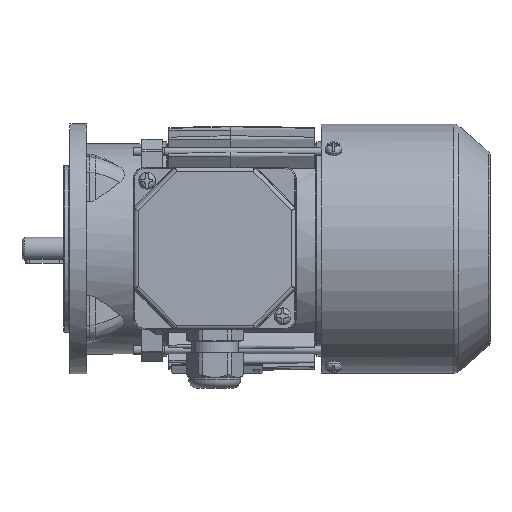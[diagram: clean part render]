
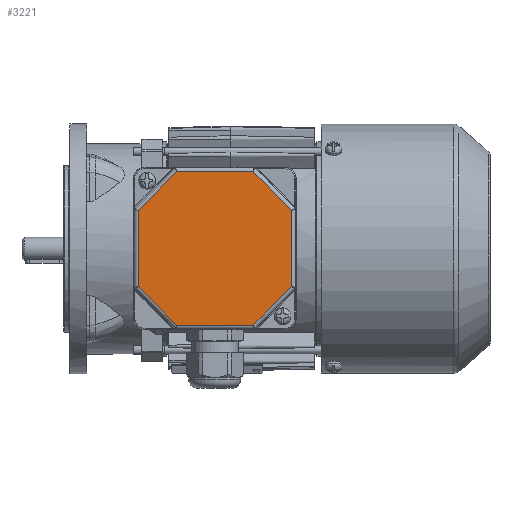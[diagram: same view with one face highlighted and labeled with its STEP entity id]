
A CAD part, top view. The second image highlights one B-rep face of the part: STEP entity #3221.
In plain terms, the highlighted planar face has unit normal (0, 0, 1).
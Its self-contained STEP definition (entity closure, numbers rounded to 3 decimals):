
#3221 = ADVANCED_FACE( '', ( #7312 ), #7313, .T. );
#7312 = FACE_OUTER_BOUND( '', #14791, .T. );
#7313 = PLANE( '', #14792 );
#14791 = EDGE_LOOP( '', ( #29468, #29469, #29470, #29471, #29472, #29473, #29474, #29475 ) );
#14792 = AXIS2_PLACEMENT_3D( '', #29476, #29477, #29478 );
#29468 = ORIENTED_EDGE( '', *, *, #43688, .T. );
#29469 = ORIENTED_EDGE( '', *, *, #43689, .T. );
#29470 = ORIENTED_EDGE( '', *, *, #43690, .T. );
#29471 = ORIENTED_EDGE( '', *, *, #42019, .T. );
#29472 = ORIENTED_EDGE( '', *, *, #43691, .T. );
#29473 = ORIENTED_EDGE( '', *, *, #43692, .T. );
#29474 = ORIENTED_EDGE( '', *, *, #43693, .T. );
#29475 = ORIENTED_EDGE( '', *, *, #43694, .T. );
#29476 = CARTESIAN_POINT( '', ( -39., 39., 12. ) );
#29477 = DIRECTION( '', ( 0., 0., 1. ) );
#29478 = DIRECTION( '', ( 1., 0., 0. ) );
#42019 = EDGE_CURVE( '', #48800, #48801, #48802, .T. );
#43688 = EDGE_CURVE( '', #51622, #50199, #51623, .F. );
#43689 = EDGE_CURVE( '', #50199, #51596, #51624, .T. );
#43690 = EDGE_CURVE( '', #51596, #48800, #51625, .F. );
#43691 = EDGE_CURVE( '', #48801, #51626, #51627, .F. );
#43692 = EDGE_CURVE( '', #51626, #51628, #51629, .T. );
#43693 = EDGE_CURVE( '', #51628, #51429, #51630, .F. );
#43694 = EDGE_CURVE( '', #51429, #51622, #51631, .T. );
#48800 = VERTEX_POINT( '', #58863 );
#48801 = VERTEX_POINT( '', #58864 );
#48802 = LINE( '', #58865, #58866 );
#50199 = VERTEX_POINT( '', #62329 );
#51429 = VERTEX_POINT( '', #64662 );
#51596 = VERTEX_POINT( '', #64944 );
#51622 = VERTEX_POINT( '', #64978 );
#51623 = LINE( '', #64979, #64980 );
#51624 = LINE( '', #64981, #64982 );
#51625 = LINE( '', #64983, #64984 );
#51626 = VERTEX_POINT( '', #64985 );
#51627 = LINE( '', #64986, #64987 );
#51628 = VERTEX_POINT( '', #64988 );
#51629 = LINE( '', #64989, #64990 );
#51630 = LINE( '', #64991, #64992 );
#51631 = LINE( '', #64993, #64994 );
#58863 = CARTESIAN_POINT( '', ( -18.255, 36.825, 12. ) );
#58864 = CARTESIAN_POINT( '', ( -36.825, 18.255, 12. ) );
#58865 = CARTESIAN_POINT( '', ( -37.401, 17.679, 12. ) );
#58866 = VECTOR( '', #77732, 1000. );
#62329 = CARTESIAN_POINT( '', ( 36.825, 18.255, 12. ) );
#64662 = CARTESIAN_POINT( '', ( 18.255, -36.825, 12. ) );
#64944 = CARTESIAN_POINT( '', ( 18.255, 36.825, 12. ) );
#64978 = CARTESIAN_POINT( '', ( 36.825, -18.255, 12. ) );
#64979 = CARTESIAN_POINT( '', ( 36.825, 19.069, 12. ) );
#64980 = VECTOR( '', #79626, 1000. );
#64981 = CARTESIAN_POINT( '', ( 17.679, 37.401, 12. ) );
#64982 = VECTOR( '', #79627, 1000. );
#64983 = CARTESIAN_POINT( '', ( -19.069, 36.825, 12. ) );
#64984 = VECTOR( '', #79628, 1000. );
#64985 = CARTESIAN_POINT( '', ( -36.825, -18.255, 12. ) );
#64986 = CARTESIAN_POINT( '', ( -36.825, -19.069, 12. ) );
#64987 = VECTOR( '', #79629, 1000. );
#64988 = CARTESIAN_POINT( '', ( -18.255, -36.825, 12. ) );
#64989 = CARTESIAN_POINT( '', ( -17.679, -37.401, 12. ) );
#64990 = VECTOR( '', #79630, 1000. );
#64991 = CARTESIAN_POINT( '', ( 19.069, -36.825, 12. ) );
#64992 = VECTOR( '', #79631, 1000. );
#64993 = CARTESIAN_POINT( '', ( 37.401, -17.679, 12. ) );
#64994 = VECTOR( '', #79632, 1000. );
#77732 = DIRECTION( '', ( -0.707, -0.707, 0. ) );
#79626 = DIRECTION( '', ( 0., -1., 0. ) );
#79627 = DIRECTION( '', ( -0.707, 0.707, 0. ) );
#79628 = DIRECTION( '', ( 1., 0., 0. ) );
#79629 = DIRECTION( '', ( 0., 1., 0. ) );
#79630 = DIRECTION( '', ( 0.707, -0.707, 0. ) );
#79631 = DIRECTION( '', ( -1., 0., 0. ) );
#79632 = DIRECTION( '', ( 0.707, 0.707, 0. ) );
